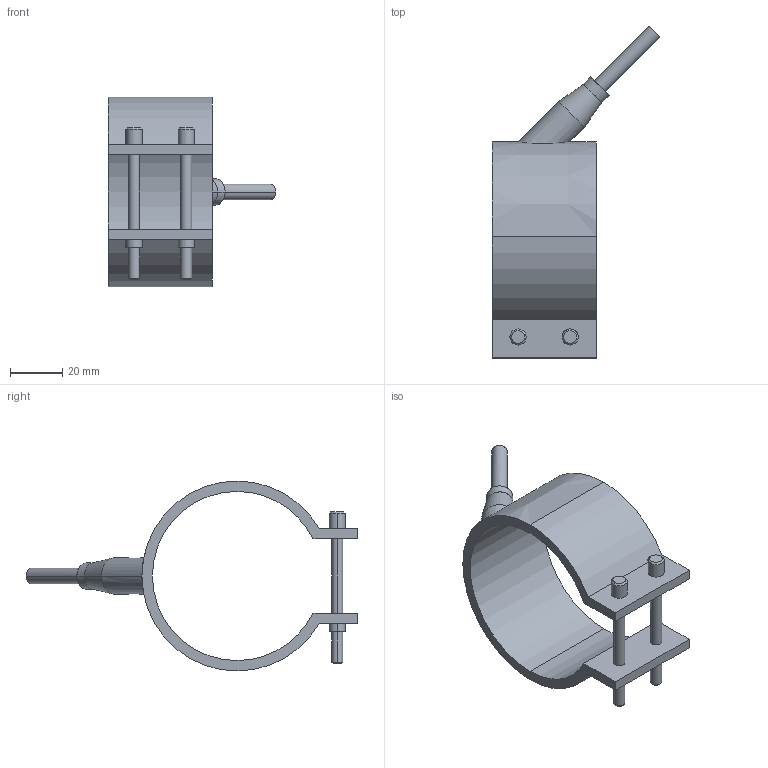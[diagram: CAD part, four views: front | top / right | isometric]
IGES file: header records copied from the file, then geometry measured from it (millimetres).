
Start section: START RECORD GO HERE.
Global section: file name: 29065040.igs; native system: DASSAULT SYSTEMES CATIA V5 R20 - www.3ds.com; preprocessor: CATIA Version 5 Release 20 ; author: Utente; organization: NB04-ASUS; date: 20210327.104723; units: millimetre
Bounding box: 64.55 x 127.55 x 73 mm (x, y, z)
Surface area: 22309.6 mm2 (no closed solid volume)
Topology: 0 solids, 0 shells, 54 faces, 252 edges, 252 vertices
Faces by surface type: revolution 38, plane 16
